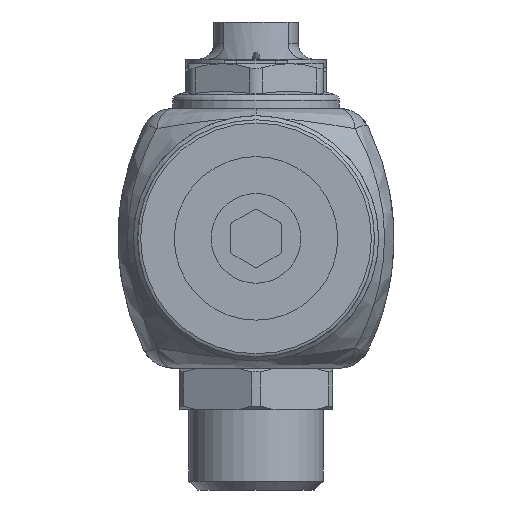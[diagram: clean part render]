
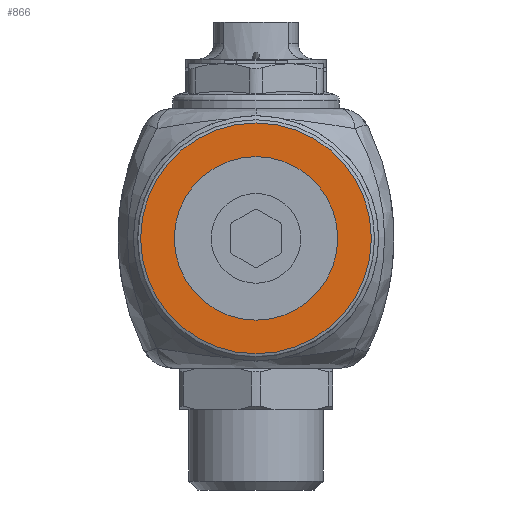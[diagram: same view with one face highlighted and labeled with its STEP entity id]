
A CAD part, front view. The second image highlights one B-rep face of the part: STEP entity #866.
In plain terms, the highlighted planar face has unit normal (0, -1, 0).
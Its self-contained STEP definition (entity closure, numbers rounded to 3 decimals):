
#866=ADVANCED_FACE('',(#14918,#14920),#14922,.F.);
#14918=FACE_BOUND('',#14919,.T.);
#14919=EDGE_LOOP('',(#24461));
#14920=FACE_BOUND('',#14921,.T.);
#14921=EDGE_LOOP('',(#24462));
#14922=PLANE('',#14923);
#14923=AXIS2_PLACEMENT_3D('',#14924,#14925,#14926);
#14924=CARTESIAN_POINT('',(0.,-245.75,0.));
#14925=DIRECTION('',(0.,1.,0.));
#14926=DIRECTION('',(-1.,0.,0.));
#24461=ORIENTED_EDGE('',*,*,#27056,.T.);
#24462=ORIENTED_EDGE('',*,*,#27089,.T.);
#27056=EDGE_CURVE('',#30858,#30858,#30859,.T.);
#27089=EDGE_CURVE('',#30913,#30913,#30914,.F.);
#30858=VERTEX_POINT('',#54393);
#30859=CIRCLE('',#54394,18.);
#30913=VERTEX_POINT('',#54526);
#30914=CIRCLE('',#54527,12.75);
#54393=CARTESIAN_POINT('',(18.,-245.75,0.));
#54394=AXIS2_PLACEMENT_3D('',#54395,#54396,#54397);
#54395=CARTESIAN_POINT('',(0.,-245.75,0.));
#54396=DIRECTION('',(0.,-1.,0.));
#54397=DIRECTION('',(1.,0.,0.));
#54526=CARTESIAN_POINT('',(12.75,-245.75,0.));
#54527=AXIS2_PLACEMENT_3D('',#54528,#54529,#54530);
#54528=CARTESIAN_POINT('',(0.,-245.75,0.));
#54529=DIRECTION('',(0.,-1.,0.));
#54530=DIRECTION('',(1.,0.,0.));
